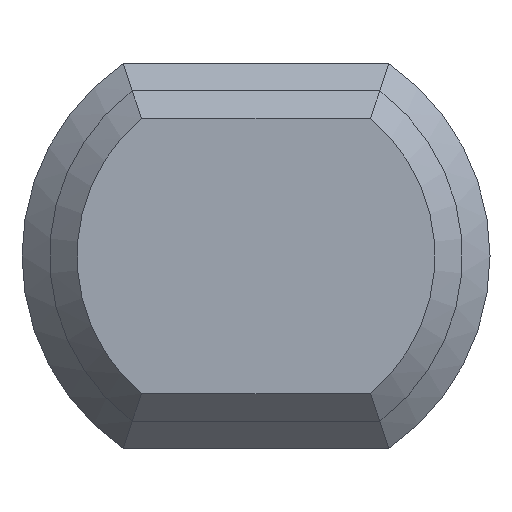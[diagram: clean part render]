
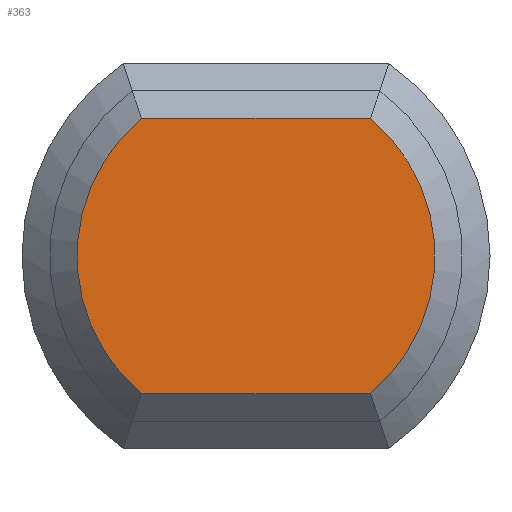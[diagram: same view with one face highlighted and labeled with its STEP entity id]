
A CAD part, front view. The second image highlights one B-rep face of the part: STEP entity #363.
In plain terms, the highlighted planar face has unit normal (0, -1, 0).
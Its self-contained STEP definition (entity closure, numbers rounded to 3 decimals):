
#16 = CARTESIAN_POINT ( 'NONE',  ( 0., -9.5, -5. ) ) ;
#125 = DIRECTION ( 'NONE',  ( 0., 0., -1. ) ) ;
#178 = EDGE_CURVE ( 'NONE', #817, #594, #338, .T. ) ;
#184 = DIRECTION ( 'NONE',  ( 0., -1., 0. ) ) ;
#214 = CIRCLE ( 'NONE', #1536, 6.5 ) ;
#319 = EDGE_CURVE ( 'NONE', #1335, #779, #950, .T. ) ;
#338 = LINE ( 'NONE', #741, #1005 ) ;
#363 = ADVANCED_FACE ( 'NONE', ( #463 ), #1244, .T. ) ;
#365 = ORIENTED_EDGE ( 'NONE', *, *, #319, .T. ) ;
#423 = CARTESIAN_POINT ( 'NONE',  ( 0., -9.5, 0. ) ) ;
#439 = VECTOR ( 'NONE', #1507, 1000. ) ;
#449 = DIRECTION ( 'NONE',  ( 0., 0., -1. ) ) ;
#463 = FACE_OUTER_BOUND ( 'NONE', #1188, .T. ) ;
#559 = CARTESIAN_POINT ( 'NONE',  ( -4.153, -9.5, 5. ) ) ;
#594 = VERTEX_POINT ( 'NONE', #559 ) ;
#741 = CARTESIAN_POINT ( 'NONE',  ( 0., -9.5, 5. ) ) ;
#767 = CIRCLE ( 'NONE', #1446, 6.5 ) ;
#779 = VERTEX_POINT ( 'NONE', #1323 ) ;
#817 = VERTEX_POINT ( 'NONE', #1486 ) ;
#950 = LINE ( 'NONE', #16, #439 ) ;
#992 = CARTESIAN_POINT ( 'NONE',  ( -4.153, -9.5, -5. ) ) ;
#1005 = VECTOR ( 'NONE', #1281, 1000. ) ;
#1058 = DIRECTION ( 'NONE',  ( 0., -1., 0. ) ) ;
#1077 = CARTESIAN_POINT ( 'NONE',  ( 0., -9.5, 0. ) ) ;
#1098 = CARTESIAN_POINT ( 'NONE',  ( 0., -9.5, 0. ) ) ;
#1116 = ORIENTED_EDGE ( 'NONE', *, *, #178, .T. ) ;
#1188 = EDGE_LOOP ( 'NONE', ( #1116, #1651, #365, #1324 ) ) ;
#1190 = EDGE_CURVE ( 'NONE', #779, #817, #767, .T. ) ;
#1244 = PLANE ( 'NONE',  #1418 ) ;
#1266 = EDGE_CURVE ( 'NONE', #594, #1335, #214, .T. ) ;
#1281 = DIRECTION ( 'NONE',  ( -1., 0., 0. ) ) ;
#1323 = CARTESIAN_POINT ( 'NONE',  ( 4.153, -9.5, -5. ) ) ;
#1324 = ORIENTED_EDGE ( 'NONE', *, *, #1190, .T. ) ;
#1335 = VERTEX_POINT ( 'NONE', #992 ) ;
#1418 = AXIS2_PLACEMENT_3D ( 'NONE', #1098, #184, #449 ) ;
#1446 = AXIS2_PLACEMENT_3D ( 'NONE', #423, #1058, #1497 ) ;
#1486 = CARTESIAN_POINT ( 'NONE',  ( 4.153, -9.5, 5. ) ) ;
#1497 = DIRECTION ( 'NONE',  ( 0., 0., -1. ) ) ;
#1507 = DIRECTION ( 'NONE',  ( 1., 0., 0. ) ) ;
#1536 = AXIS2_PLACEMENT_3D ( 'NONE', #1077, #1618, #125 ) ;
#1618 = DIRECTION ( 'NONE',  ( 0., -1., 0. ) ) ;
#1651 = ORIENTED_EDGE ( 'NONE', *, *, #1266, .T. ) ;
